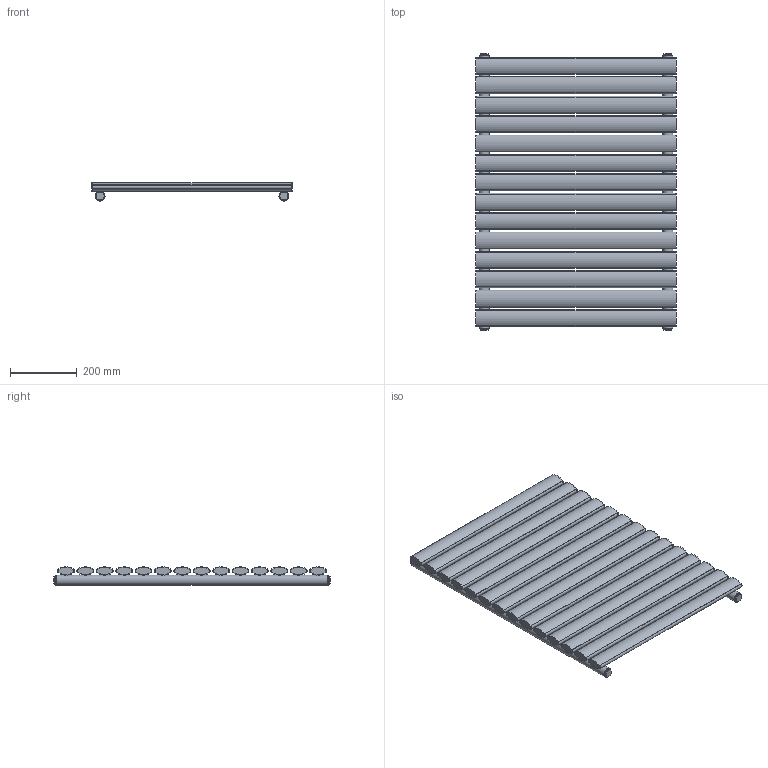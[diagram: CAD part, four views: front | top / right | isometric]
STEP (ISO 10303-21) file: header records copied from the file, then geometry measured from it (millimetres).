
FILE_DESCRIPTION(/* description */ (''),/* implementation_level */ '2;1');
FILE_NAME(/* name */ 'C:\Grzejniki\13DLUXRAD\pokojowe\FORTUNA\FORTUNA POJEDYNCZA 600x816.iam.stp',/* time_stamp */ '2016-06-28T17:32:30+02:00',/* author */ ('m.szydziak'),/* organization */ (''),/* preprocessor_version */ 'ST-DEVELOPER v16.5',/* originating_system */ 'Autodesk Inventor 2017',/* authorisation */ '');
FILE_SCHEMA (('AUTOMOTIVE_DESIGN { 1 0 10303 214 3 1 1 }'));
Length unit declared in the file: millimetre
Products named in the file (5): FORTUNA POJEDYNCZA 600x816; fi30x1,5x816; 50x25x1,2x600; zaślepka fi30 G0,5inch; korek
Assembly tree (24 placements, depth 2):
  FORTUNA POJEDYNCZA 600x816
    fi30x1,5x816  x2
    50x25x1,2x600  x14
    zaślepka fi30 G0,5inch  x4
    korek  x4
Bounding box: 600 x 828 x 54.86 mm (x, y, z)
Volume: 1435506.9 mm3; surface area: 2309374.6 mm2
Topology: 24 solids, 24 shells, 312 faces, 810 edges, 578 vertices
Faces by surface type: cylinder 184, plane 128
Full cylindrical faces by diameter (mm): 5 x24, 5.8 x28, 18.631 x8, 24 x4, 27 x6, 30 x2
Entity records: 2755 total; most frequent: CARTESIAN_POINT 1244, DIRECTION 278, ORIENTED_EDGE 230, AXIS2_PLACEMENT_3D 123, EDGE_CURVE 115, EDGE_LOOP 108, VERTEX_POINT 95, FACE_BOUND 55
